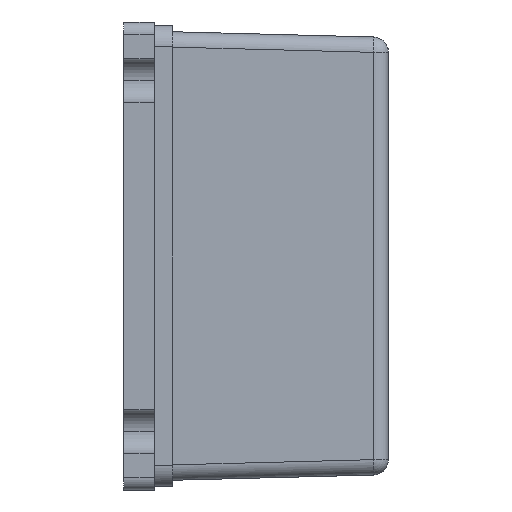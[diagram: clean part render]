
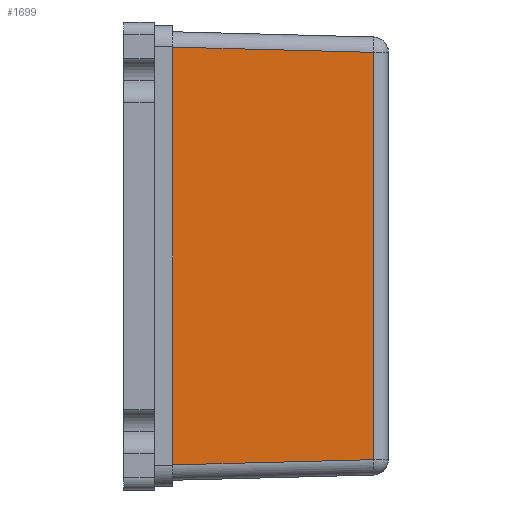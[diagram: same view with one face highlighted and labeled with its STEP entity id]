
A CAD part, left-side view. The second image highlights one B-rep face of the part: STEP entity #1699.
In plain terms, the highlighted planar face has unit normal (-1, -0.026, 0).
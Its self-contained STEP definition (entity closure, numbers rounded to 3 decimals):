
#316 = DIRECTION ( 'NONE',  ( 0.026, -0.999, -0.026 ) ) ;
#1636 = CARTESIAN_POINT ( 'NONE',  ( 16.079, -3., -4.078 ) ) ;
#1699 = ADVANCED_FACE ( 'NONE', ( #35282 ), #29107, .T. ) ;
#1809 = CARTESIAN_POINT ( 'NONE',  ( 16.931, -35.565, -71.07 ) ) ;
#2419 = ORIENTED_EDGE ( 'NONE', *, *, #21721, .F. ) ;
#4164 = DIRECTION ( 'NONE',  ( 0., 0., 1. ) ) ;
#4329 = VERTEX_POINT ( 'NONE', #1809 ) ;
#7886 = EDGE_CURVE ( 'NONE', #22122, #15462, #36805, .T. ) ;
#7921 = VECTOR ( 'NONE', #4164, 1000. ) ;
#7986 = LINE ( 'NONE', #16999, #18012 ) ;
#9255 = CARTESIAN_POINT ( 'NONE',  ( 16.079, -3., -4.078 ) ) ;
#9510 = CARTESIAN_POINT ( 'NONE',  ( 16.931, -35.565, -71.07 ) ) ;
#10234 = VERTEX_POINT ( 'NONE', #31704 ) ;
#11354 = VECTOR ( 'NONE', #316, 1000. ) ;
#11364 = EDGE_LOOP ( 'NONE', ( #11749, #2419, #30337, #21336 ) ) ;
#11749 = ORIENTED_EDGE ( 'NONE', *, *, #30439, .T. ) ;
#12760 = LINE ( 'NONE', #9510, #7921 ) ;
#14593 = DIRECTION ( 'NONE',  ( -1., -0.026, 0. ) ) ;
#15462 = VERTEX_POINT ( 'NONE', #1636 ) ;
#15959 = AXIS2_PLACEMENT_3D ( 'NONE', #23740, #14593, #29851 ) ;
#16999 = CARTESIAN_POINT ( 'NONE',  ( 16.931, -35.565, -71.07 ) ) ;
#18012 = VECTOR ( 'NONE', #19282, 1000. ) ;
#18794 = DIRECTION ( 'NONE',  ( 0., 0., 1. ) ) ;
#19282 = DIRECTION ( 'NONE',  ( -0.026, 0.999, -0.026 ) ) ;
#21336 = ORIENTED_EDGE ( 'NONE', *, *, #22248, .F. ) ;
#21721 = EDGE_CURVE ( 'NONE', #15462, #10234, #26465, .T. ) ;
#22122 = VERTEX_POINT ( 'NONE', #30619 ) ;
#22248 = EDGE_CURVE ( 'NONE', #4329, #22122, #7986, .T. ) ;
#23740 = CARTESIAN_POINT ( 'NONE',  ( 16., 0., 1.532 ) ) ;
#25590 = VECTOR ( 'NONE', #18794, 1000. ) ;
#26465 = LINE ( 'NONE', #9255, #11354 ) ;
#27573 = CARTESIAN_POINT ( 'NONE',  ( 16.079, -3., -71.922 ) ) ;
#29107 = PLANE ( 'NONE',  #15959 ) ;
#29851 = DIRECTION ( 'NONE',  ( 0., 0., 1. ) ) ;
#30337 = ORIENTED_EDGE ( 'NONE', *, *, #7886, .F. ) ;
#30439 = EDGE_CURVE ( 'NONE', #4329, #10234, #12760, .T. ) ;
#30619 = CARTESIAN_POINT ( 'NONE',  ( 16.079, -3., -71.922 ) ) ;
#31704 = CARTESIAN_POINT ( 'NONE',  ( 16.931, -35.565, -4.93 ) ) ;
#35282 = FACE_OUTER_BOUND ( 'NONE', #11364, .T. ) ;
#36805 = LINE ( 'NONE', #27573, #25590 ) ;
